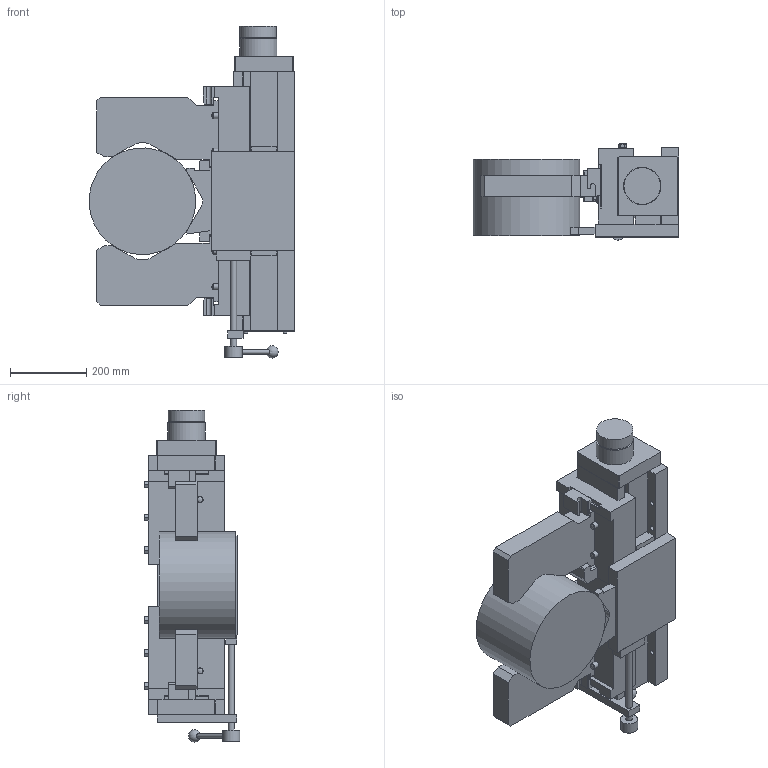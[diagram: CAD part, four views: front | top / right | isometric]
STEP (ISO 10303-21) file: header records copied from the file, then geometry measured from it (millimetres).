
FILE_DESCRIPTION((''),'2;1');
FILE_NAME('C:\VaultWork\Zeichnungen\Maßblätter\PZ330\PZ01306-1-0 PZ330 mit Vorzentrierung Spannbereich 220-280.stp','2009-02-02T15:36:36',('Test'),(''),'Autodesk Inventor 2008','Autodesk Inventor 2008','');
FILE_SCHEMA(('AUTOMOTIVE_DESIGN { 1 0 10303 214 1 1 1 1 }'));
Length unit declared in the file: millimetre
Products named in the file (1): PZ01306-1-0 PZ330 mit Vorzentrierung Spannbereich 220-280
Bounding box: 539.76 x 251.29 x 871.5 mm (x, y, z)
Volume: 43550323.9 mm3; surface area: 1891216.3 mm2
Topology: 2 solids, 7 shells, 501 faces, 1336 edges, 842 vertices
Faces by surface type: plane 341, cone 93, cylinder 35, bspline 23, sphere 5, torus 4
Full cylindrical faces by diameter (mm): 6 x4, 10 x4, 12 x1, 16 x6, 90 x1, 96 x1, 98 x1, 280 x1
Entity records: 15629 total; most frequent: CARTESIAN_POINT 3396, ORIENTED_EDGE 2496, DIRECTION 2236, EDGE_CURVE 1248, VECTOR 878, LINE 878, VERTEX_POINT 807, AXIS2_PLACEMENT_3D 679
